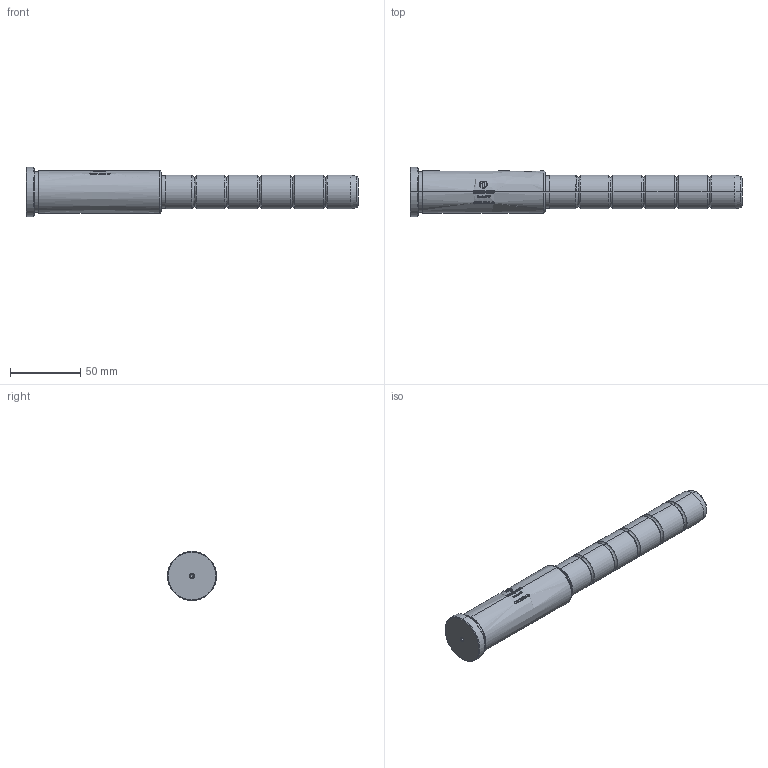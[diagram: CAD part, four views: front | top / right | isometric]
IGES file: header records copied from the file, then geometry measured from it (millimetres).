
Start section: SolidWorks IGES file using analytic representation for surfaces
Global section: file name: C:\Users\User\Downloads\CFM - 09-09\CFM  - Nova\24\CFM24096140.IGS; native system: SolidWorks 2024; preprocessor: SolidWorks 2024; author: User; date: 260910.165749; units: millimetre
Bounding box: 236 x 35 x 35 mm (x, y, z)
Surface area: 22174.3 mm2 (no closed solid volume)
Topology: 0 solids, 0 shells, 517 faces, 4995 edges, 4991 vertices
Faces by surface type: bspline 411, revolution 106
